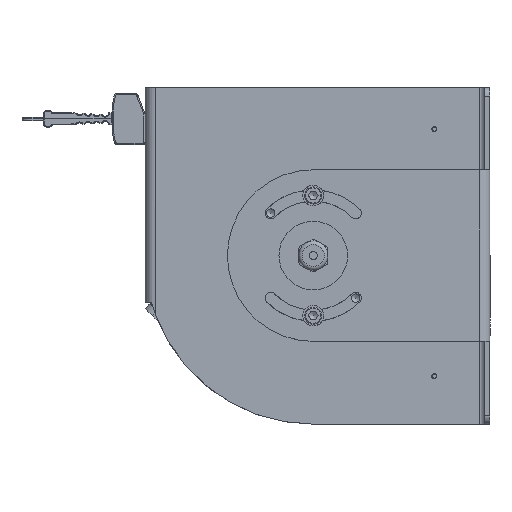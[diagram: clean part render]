
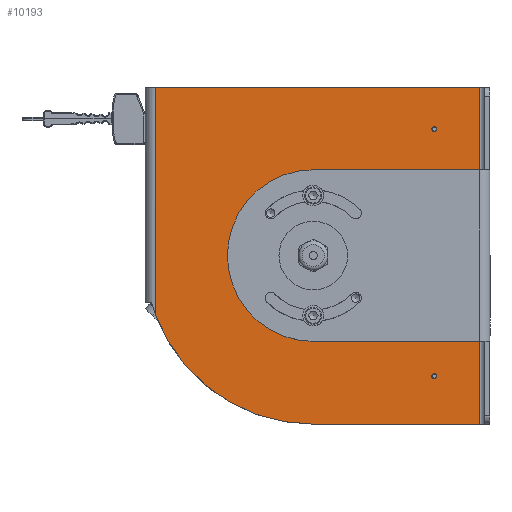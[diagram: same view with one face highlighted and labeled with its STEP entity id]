
A CAD part, top view. The second image highlights one B-rep face of the part: STEP entity #10193.
In plain terms, the highlighted planar face has unit normal (0, 0, 1).
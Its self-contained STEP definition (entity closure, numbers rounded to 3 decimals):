
#9095=CARTESIAN_POINT('',(97.,98.,-1.5));
#9096=VERTEX_POINT('',#9095);
#9104=CARTESIAN_POINT('',(97.,-98.,-1.5));
#9105=VERTEX_POINT('',#9104);
#9106=CARTESIAN_POINT('',(97.,98.,-1.5));
#9107=DIRECTION('',(0.0,-1.0,0.0));
#9108=VECTOR('',#9107,196.0);
#9109=LINE('',#9106,#9108);
#9110=EDGE_CURVE('',#9096,#9105,#9109,.T.);
#9335=CARTESIAN_POINT('',(-92.0,98.,-1.5));
#9336=VERTEX_POINT('',#9335);
#9344=CARTESIAN_POINT('',(-92.0,98.,-1.5));
#9345=DIRECTION('',(1.0,0.0,0.0));
#9346=VECTOR('',#9345,189.);
#9347=LINE('',#9344,#9346);
#9348=EDGE_CURVE('',#9336,#9096,#9347,.T.);
#9370=CARTESIAN_POINT('',(0.,-98.0,-1.5));
#9371=VERTEX_POINT('',#9370);
#9384=CARTESIAN_POINT('',(97.,-98.,-1.5));
#9385=DIRECTION('',(-1.0,0.0,0.0));
#9386=VECTOR('',#9385,97.);
#9387=LINE('',#9384,#9386);
#9388=EDGE_CURVE('',#9105,#9371,#9387,.T.);
#9469=CARTESIAN_POINT('',(-92.,-33.764,-1.5));
#9470=VERTEX_POINT('',#9469);
#9478=CARTESIAN_POINT('',(-92.,-33.764,-1.5));
#9479=DIRECTION('',(0.0,1.0,0.0));
#9480=VECTOR('',#9479,131.764);
#9481=LINE('',#9478,#9480);
#9482=EDGE_CURVE('',#9470,#9336,#9481,.T.);
#10142=CARTESIAN_POINT('',(1.,0.,-1.5));
#10143=DIRECTION('',(0.0,0.0,1.0));
#10144=DIRECTION('',(0.0,1.0,0.0));
#10145=AXIS2_PLACEMENT_3D('',#10142,#10143,#10144);
#10146=PLANE('',#10145);
#10147=ORIENTED_EDGE('',*,*,#9482,.F.);
#10148=CARTESIAN_POINT('',(0.,0.0,-1.5));
#10149=DIRECTION('',(0.,0.,-1.0));
#10150=DIRECTION('',(-0.707,-0.707,0.));
#10151=AXIS2_PLACEMENT_3D('',#10148,#10149,#10150);
#10152=CIRCLE('',#10151,98.0);
#10153=EDGE_CURVE('',#9371,#9470,#10152,.T.);
#10154=ORIENTED_EDGE('',*,*,#10153,.F.);
#10155=ORIENTED_EDGE('',*,*,#9388,.F.);
#10156=ORIENTED_EDGE('',*,*,#9110,.F.);
#10157=ORIENTED_EDGE('',*,*,#9348,.F.);
#10158=EDGE_LOOP('',(#10147,#10154,#10155,#10156,#10157));
#10159=FACE_OUTER_BOUND('',#10158,.T.);
#10160=CARTESIAN_POINT('',(70.551,-71.491,-1.5));
#10161=VERTEX_POINT('',#10160);
#10162=CARTESIAN_POINT('',(70.551,-69.991,-1.5));
#10163=DIRECTION('',(0.0,0.0,-1.0));
#10164=DIRECTION('',(0.0,1.0,0.0));
#10165=AXIS2_PLACEMENT_3D('',#10162,#10163,#10164);
#10166=CIRCLE('',#10165,1.5);
#10167=EDGE_CURVE('',#10161,#10161,#10166,.T.);
#10168=ORIENTED_EDGE('',*,*,#10167,.T.);
#10169=EDGE_LOOP('',(#10168));
#10170=FACE_BOUND('',#10169,.T.);
#10171=CARTESIAN_POINT('',(70.551,72.491,-1.5));
#10172=VERTEX_POINT('',#10171);
#10173=CARTESIAN_POINT('',(70.551,73.991,-1.5));
#10174=DIRECTION('',(0.0,0.0,-1.0));
#10175=DIRECTION('',(0.0,1.0,0.0));
#10176=AXIS2_PLACEMENT_3D('',#10173,#10174,#10175);
#10177=CIRCLE('',#10176,1.5);
#10178=EDGE_CURVE('',#10172,#10172,#10177,.T.);
#10179=ORIENTED_EDGE('',*,*,#10178,.T.);
#10180=EDGE_LOOP('',(#10179));
#10181=FACE_BOUND('',#10180,.T.);
#10182=CARTESIAN_POINT('',(45.,0.,-1.5));
#10183=VERTEX_POINT('',#10182);
#10184=CARTESIAN_POINT('',(0.,0.,-1.5));
#10185=DIRECTION('',(0.0,0.0,-1.0));
#10186=DIRECTION('',(-1.0,0.0,0.0));
#10187=AXIS2_PLACEMENT_3D('',#10184,#10185,#10186);
#10188=CIRCLE('',#10187,45.0);
#10189=EDGE_CURVE('',#10183,#10183,#10188,.T.);
#10190=ORIENTED_EDGE('',*,*,#10189,.T.);
#10191=EDGE_LOOP('',(#10190));
#10192=FACE_BOUND('',#10191,.T.);
#10193=ADVANCED_FACE('',(#10159,#10170,#10181,#10192),#10146,.T.);
